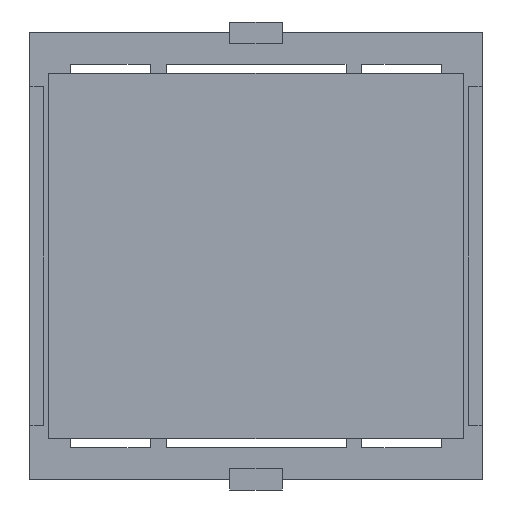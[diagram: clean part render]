
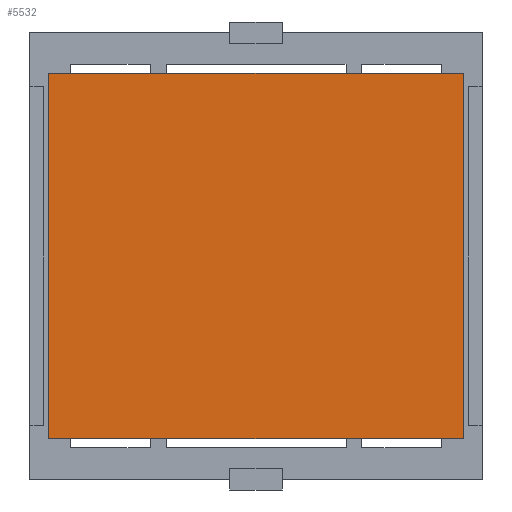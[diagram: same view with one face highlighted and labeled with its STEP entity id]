
A CAD part, front view. The second image highlights one B-rep face of the part: STEP entity #5532.
In plain terms, the highlighted planar face has unit normal (0, -1, 0).
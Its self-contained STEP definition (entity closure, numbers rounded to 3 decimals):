
#370 = ORIENTED_EDGE ( 'NONE', *, *, #4580, .F. ) ;
#380 = EDGE_CURVE ( 'NONE', #1048, #2582, #5593, .T. ) ;
#387 = PLANE ( 'NONE',  #1542 ) ;
#495 = ORIENTED_EDGE ( 'NONE', *, *, #380, .F. ) ;
#519 = CARTESIAN_POINT ( 'NONE',  ( 19.558, -0.127, 17.272 ) ) ;
#549 = CARTESIAN_POINT ( 'NONE',  ( 19.558, -0.127, -17.272 ) ) ;
#946 = DIRECTION ( 'NONE',  ( 0., 1., 0. ) ) ;
#972 = CARTESIAN_POINT ( 'NONE',  ( -19.558, -0.127, 17.272 ) ) ;
#979 = DIRECTION ( 'NONE',  ( 0., 0., 1. ) ) ;
#1048 = VERTEX_POINT ( 'NONE', #972 ) ;
#1249 = EDGE_LOOP ( 'NONE', ( #370, #4771, #1715, #495 ) ) ;
#1461 = LINE ( 'NONE', #3747, #2610 ) ;
#1542 = AXIS2_PLACEMENT_3D ( 'NONE', #2641, #946, #3160 ) ;
#1715 = ORIENTED_EDGE ( 'NONE', *, *, #5177, .F. ) ;
#2139 = DIRECTION ( 'NONE',  ( 0., 0., -1. ) ) ;
#2582 = VERTEX_POINT ( 'NONE', #519 ) ;
#2610 = VECTOR ( 'NONE', #979, 1000. ) ;
#2641 = CARTESIAN_POINT ( 'NONE',  ( -19.558, -0.127, 17.272 ) ) ;
#2690 = LINE ( 'NONE', #549, #5613 ) ;
#3160 = DIRECTION ( 'NONE',  ( 0., 0., 1. ) ) ;
#3505 = VECTOR ( 'NONE', #3922, 1000. ) ;
#3747 = CARTESIAN_POINT ( 'NONE',  ( -19.558, -0.127, -17.272 ) ) ;
#3922 = DIRECTION ( 'NONE',  ( 1., 0., 0. ) ) ;
#4029 = CARTESIAN_POINT ( 'NONE',  ( -19.558, -0.127, -17.272 ) ) ;
#4057 = CARTESIAN_POINT ( 'NONE',  ( -19.558, -0.127, -17.272 ) ) ;
#4580 = EDGE_CURVE ( 'NONE', #5991, #1048, #1461, .T. ) ;
#4771 = ORIENTED_EDGE ( 'NONE', *, *, #6702, .F. ) ;
#4820 = VERTEX_POINT ( 'NONE', #5846 ) ;
#5126 = DIRECTION ( 'NONE',  ( -1., 0., 0. ) ) ;
#5177 = EDGE_CURVE ( 'NONE', #2582, #4820, #2690, .T. ) ;
#5532 = ADVANCED_FACE ( 'NONE', ( #6636 ), #387, .F. ) ;
#5593 = LINE ( 'NONE', #6204, #3505 ) ;
#5613 = VECTOR ( 'NONE', #2139, 1000. ) ;
#5846 = CARTESIAN_POINT ( 'NONE',  ( 19.558, -0.127, -17.272 ) ) ;
#5991 = VERTEX_POINT ( 'NONE', #4057 ) ;
#6204 = CARTESIAN_POINT ( 'NONE',  ( -19.558, -0.127, 17.272 ) ) ;
#6271 = VECTOR ( 'NONE', #5126, 1000. ) ;
#6636 = FACE_OUTER_BOUND ( 'NONE', #1249, .T. ) ;
#6702 = EDGE_CURVE ( 'NONE', #4820, #5991, #6872, .T. ) ;
#6872 = LINE ( 'NONE', #4029, #6271 ) ;
